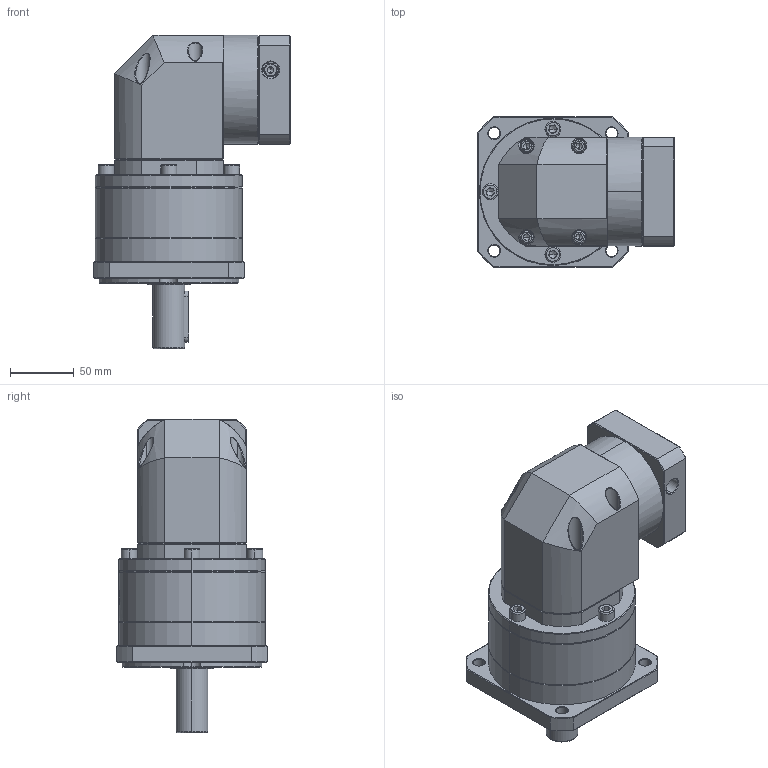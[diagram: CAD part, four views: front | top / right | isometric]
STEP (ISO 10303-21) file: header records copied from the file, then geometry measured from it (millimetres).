
FILE_DESCRIPTION (( 'STEP AP214' ), '1' );
FILE_NAME ('ZFR120A-D25-L2-P2-14-60-75-M5.step', '2023-08-27T09:15:37', ( '' ), ( '' ), 'SwSTEP 2.0', 'SolidWorks 2016', '' );
FILE_SCHEMA (( 'AUTOMOTIVE_DESIGN' ));
Length unit declared in the file: millimetre
Products named in the file (1): ZFR120A-D25-L2-P2-14-60-75-M5
Bounding box: 154.1 x 118 x 245 mm (x, y, z)
Volume: 1860428.5 mm3; surface area: 170150.7 mm2
Topology: 6 solids, 6 shells, 2405 faces, 6284 edges, 3984 vertices
Faces by surface type: plane 1174, cylinder 452, bspline 443, cone 322, torus 14
Entity records: 130058 total; most frequent: CARTESIAN_POINT 50255, ORIENTED_EDGE 12476, DIRECTION 9187, EDGE_CURVE 6238, VERTEX_POINT 3984, VECTOR 3387, LINE 3387, AXIS2_PLACEMENT_3D 2900
